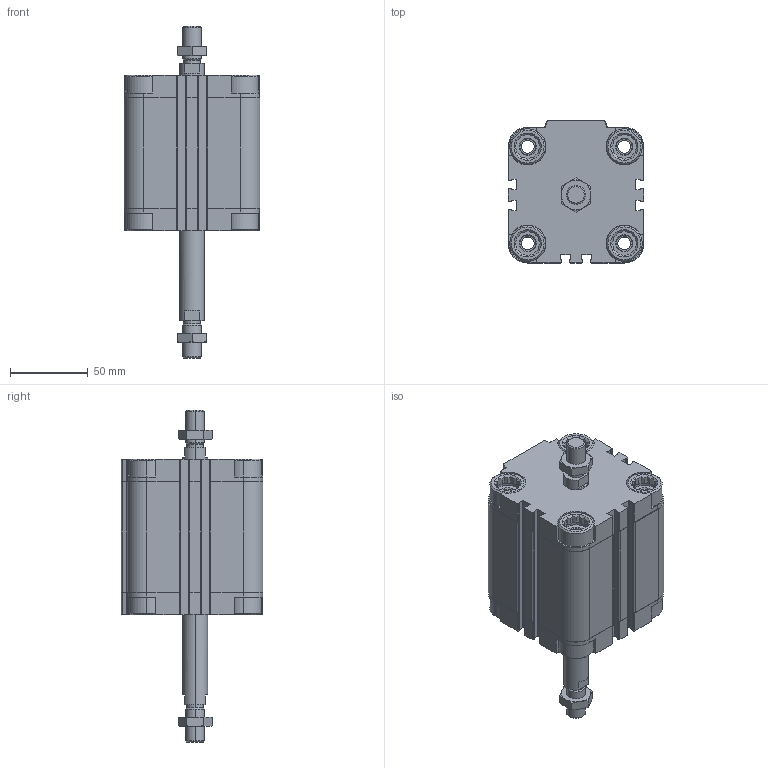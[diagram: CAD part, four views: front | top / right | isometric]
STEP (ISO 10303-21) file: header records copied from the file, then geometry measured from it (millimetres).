
FILE_DESCRIPTION (( 'STEP AP203' ), '1' );
FILE_NAME ('CDVU63-50M-P.STEP', '2020-07-21T15:21:42', ( '' ), ( '' ), 'SwSTEP 2.0', 'SolidWorks 2019', '' );
FILE_SCHEMA (( 'CONFIG_CONTROL_DESIGN' ));
Length unit declared in the file: millimetre
Products named in the file (1): CDVU63-50M-P
Bounding box: 87 x 91 x 213 mm (x, y, z)
Volume: 547309.5 mm3; surface area: 119180.6 mm2
Topology: 4 solids, 4 shells, 658 faces, 1744 edges, 1138 vertices
Faces by surface type: plane 386, cylinder 192, cone 80
Entity records: 21255 total; most frequent: CARTESIAN_POINT 4809, ORIENTED_EDGE 3480, DIRECTION 3322, EDGE_CURVE 1740, AXIS2_PLACEMENT_3D 1139, VERTEX_POINT 1138, LINE 1044, VECTOR 1044
